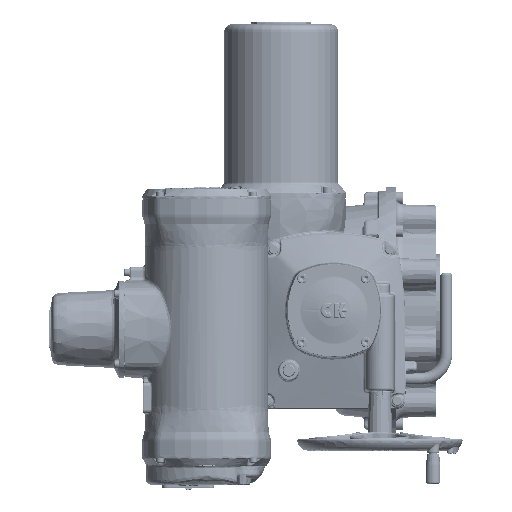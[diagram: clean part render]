
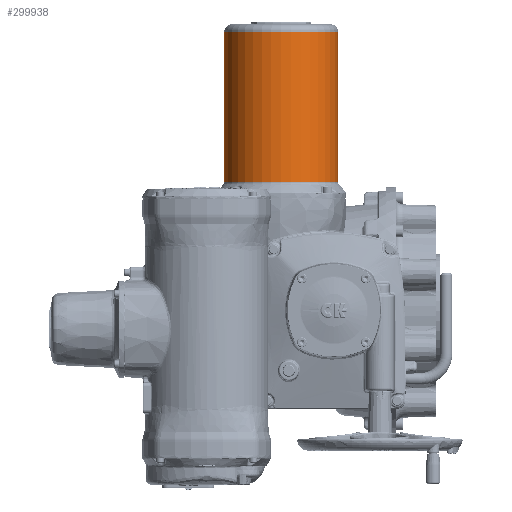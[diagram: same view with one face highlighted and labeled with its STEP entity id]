
A CAD part, top view. The second image highlights one B-rep face of the part: STEP entity #299938.
In plain terms, the highlighted cylindrical face has radius 75.5 mm (diameter 151 mm), a full revolution.
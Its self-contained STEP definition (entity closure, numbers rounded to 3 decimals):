
#7764=CYLINDRICAL_SURFACE('',#313986,75.5);
#13693=B_SPLINE_CURVE_WITH_KNOTS('',3,(#441115,#441116,#441117,#441118,
#441119,#441120,#441121,#441122,#441123,#441124,#441125,#441126,#441127,
#441128,#441129,#441130,#441131,#441132,#441133,#441134,#441135,#441136,
#441137,#441138,#441139,#441140,#441141,#441142,#441143,#441144,#441145,
#441146,#441147,#441148,#441149),.UNSPECIFIED.,.T.,.F.,(1,1,1,1,1,1,1,1,
1,1,1,1,1,1,1,1,1,1,1,1,1,1,1,1,1,1,1,1,1,1,1,1,1,1,1,1,1,1,1),(-0.095,
-0.064,-0.033,0.,0.03,0.061,0.092,
0.123,0.155,0.186,0.217,0.248,
0.28,0.311,0.342,0.373,
0.405,0.436,0.467,0.498,
0.53,0.561,0.592,0.623,
0.655,0.686,0.717,0.748,
0.78,0.811,0.842,0.873,
0.905,0.936,0.967,1.,1.03,1.061,
1.092),.UNSPECIFIED.);
#58801=ORIENTED_EDGE('',*,*,#116115,.T.);
#58802=ORIENTED_EDGE('',*,*,#116113,.T.);
#58803=ORIENTED_EDGE('',*,*,#116116,.T.);
#116113=EDGE_CURVE('',#145589,#145589,#13693,.T.);
#116115=EDGE_CURVE('',#145591,#145591,#162633,.T.);
#116116=EDGE_CURVE('',#145592,#145592,#162634,.T.);
#145589=VERTEX_POINT('',#441150);
#145591=VERTEX_POINT('',#441156);
#145592=VERTEX_POINT('',#441158);
#162633=CIRCLE('',#313987,75.5);
#162634=CIRCLE('',#313988,75.5);
#170344=EDGE_LOOP('',(#58801));
#170345=EDGE_LOOP('',(#58802));
#170346=EDGE_LOOP('',(#58803));
#185305=FACE_BOUND('',#170344,.T.);
#185306=FACE_BOUND('',#170345,.T.);
#185307=FACE_BOUND('',#170346,.T.);
#299938=ADVANCED_FACE('',(#185305,#185306,#185307),#7764,.T.);
#313986=AXIS2_PLACEMENT_3D('',#441154,#336256,#336257);
#313987=AXIS2_PLACEMENT_3D('',#441155,#336258,#336259);
#313988=AXIS2_PLACEMENT_3D('',#441157,#336260,#336261);
#336256=DIRECTION('',(0.,-1.,0.));
#336257=DIRECTION('',(-1.,0.,0.));
#336258=DIRECTION('',(0.,1.,0.));
#336259=DIRECTION('',(1.,0.,0.));
#336260=DIRECTION('',(0.,-1.,0.));
#336261=DIRECTION('',(-1.,0.,0.));
#441115=CARTESIAN_POINT('',(16.006,-100.019,73.786));
#441116=CARTESIAN_POINT('',(16.695,-103.373,73.631));
#441117=CARTESIAN_POINT('',(16.762,-106.799,73.616));
#441118=CARTESIAN_POINT('',(16.248,-110.093,73.732));
#441119=CARTESIAN_POINT('',(15.12,-113.3,73.975));
#441120=CARTESIAN_POINT('',(13.426,-116.253,74.305));
#441121=CARTESIAN_POINT('',(11.226,-118.801,74.675));
#441122=CARTESIAN_POINT('',(8.53,-120.897,75.035));
#441123=CARTESIAN_POINT('',(5.504,-122.384,75.322));
#441124=CARTESIAN_POINT('',(2.184,-123.219,75.494));
#441125=CARTESIAN_POINT('',(-1.215,-123.321,75.516));
#441126=CARTESIAN_POINT('',(-4.563,-122.7,75.386));
#441127=CARTESIAN_POINT('',(-7.714,-121.376,75.125));
#441128=CARTESIAN_POINT('',(-10.492,-119.461,74.783));
#441129=CARTESIAN_POINT('',(-12.854,-117.015,74.408));
#441130=CARTESIAN_POINT('',(-14.698,-114.175,74.061));
#441131=CARTESIAN_POINT('',(-15.985,-111.024,73.791));
#441132=CARTESIAN_POINT('',(-16.688,-107.68,73.633));
#441133=CARTESIAN_POINT('',(-16.773,-104.276,73.613));
#441134=CARTESIAN_POINT('',(-16.249,-100.912,73.732));
#441135=CARTESIAN_POINT('',(-15.126,-97.707,73.974));
#441136=CARTESIAN_POINT('',(-13.438,-94.763,74.303));
#441137=CARTESIAN_POINT('',(-11.224,-92.201,74.675));
#441138=CARTESIAN_POINT('',(-8.551,-90.115,75.033));
#441139=CARTESIAN_POINT('',(-5.498,-88.613,75.322));
#441140=CARTESIAN_POINT('',(-2.189,-87.783,75.493));
#441141=CARTESIAN_POINT('',(1.203,-87.675,75.516));
#441142=CARTESIAN_POINT('',(4.576,-88.305,75.385));
#441143=CARTESIAN_POINT('',(7.692,-89.612,75.127));
#441144=CARTESIAN_POINT('',(10.498,-91.544,74.782));
#441145=CARTESIAN_POINT('',(12.848,-93.978,74.409));
#441146=CARTESIAN_POINT('',(14.694,-96.818,74.062));
#441147=CARTESIAN_POINT('',(16.006,-100.019,73.786));
#441148=CARTESIAN_POINT('',(16.695,-103.373,73.631));
#441149=CARTESIAN_POINT('',(16.762,-106.799,73.616));
#441150=CARTESIAN_POINT('',(16.604,-103.502,73.652));
#441154=CARTESIAN_POINT('',(0.,54.,0.));
#441155=CARTESIAN_POINT('',(0.,-213.5,0.));
#441156=CARTESIAN_POINT('',(75.5,-213.5,0.));
#441157=CARTESIAN_POINT('',(0.,-14.146,0.));
#441158=CARTESIAN_POINT('',(-75.5,-14.146,0.));
